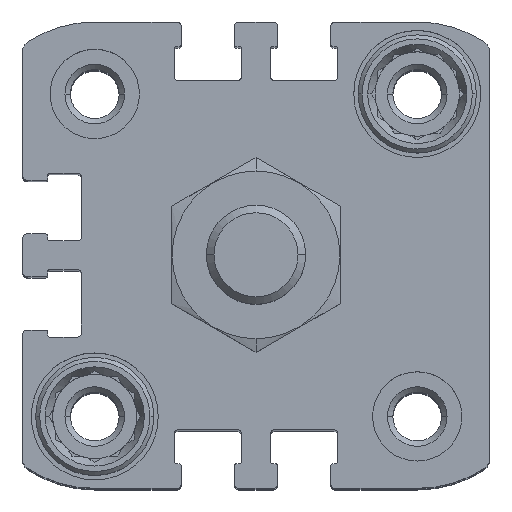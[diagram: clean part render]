
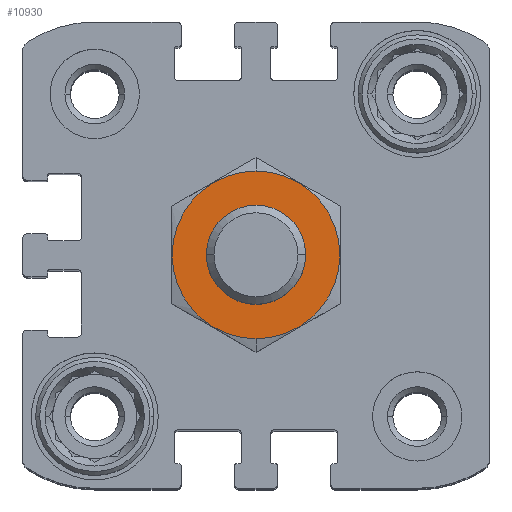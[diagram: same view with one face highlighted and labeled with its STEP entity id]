
A CAD part, top view. The second image highlights one B-rep face of the part: STEP entity #10930.
In plain terms, the highlighted planar face has unit normal (0, 0, 1).
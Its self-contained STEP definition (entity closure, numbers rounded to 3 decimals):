
#46 = ORIENTED_EDGE ( 'NONE', *, *, #2064, .T. ) ;
#1138 = CARTESIAN_POINT ( 'NONE',  ( 0., -5., 15.75 ) ) ;
#1268 = DIRECTION ( 'NONE',  ( 0., 1., 0. ) ) ;
#1349 = CIRCLE ( 'NONE', #6385, 5. ) ;
#1622 = AXIS2_PLACEMENT_3D ( 'NONE', #9923, #7033, #11241 ) ;
#1828 = CARTESIAN_POINT ( 'NONE',  ( 0., -8.45, 15.75 ) ) ;
#1905 = CIRCLE ( 'NONE', #1622, 8.45 ) ;
#2064 = EDGE_CURVE ( 'NONE', #13394, #11253, #16248, .T. ) ;
#2387 = VERTEX_POINT ( 'NONE', #9518 ) ;
#2725 = EDGE_LOOP ( 'NONE', ( #8730, #9929 ) ) ;
#3131 = DIRECTION ( 'NONE',  ( 0., 1., 0. ) ) ;
#3365 = EDGE_LOOP ( 'NONE', ( #46, #12226 ) ) ;
#3404 = DIRECTION ( 'NONE',  ( 0., 1., 0. ) ) ;
#4524 = CARTESIAN_POINT ( 'NONE',  ( 0., 0., 15.75 ) ) ;
#5407 = FACE_BOUND ( 'NONE', #3365, .T. ) ;
#6209 = CARTESIAN_POINT ( 'NONE',  ( 0., 0., 15.75 ) ) ;
#6385 = AXIS2_PLACEMENT_3D ( 'NONE', #16358, #16179, #13467 ) ;
#6715 = FACE_OUTER_BOUND ( 'NONE', #2725, .T. ) ;
#7033 = DIRECTION ( 'NONE',  ( 0., 0., -1. ) ) ;
#7241 = CIRCLE ( 'NONE', #14810, 8.45 ) ;
#7720 = EDGE_CURVE ( 'NONE', #2387, #14684, #7241, .T. ) ;
#8466 = EDGE_CURVE ( 'NONE', #14684, #2387, #1905, .T. ) ;
#8730 = ORIENTED_EDGE ( 'NONE', *, *, #7720, .F. ) ;
#9274 = DIRECTION ( 'NONE',  ( 0., 0., -1. ) ) ;
#9518 = CARTESIAN_POINT ( 'NONE',  ( 0., 8.45, 15.75 ) ) ;
#9923 = CARTESIAN_POINT ( 'NONE',  ( 0., 0., 15.75 ) ) ;
#9929 = ORIENTED_EDGE ( 'NONE', *, *, #8466, .F. ) ;
#10467 = CARTESIAN_POINT ( 'NONE',  ( 0., 5., 15.75 ) ) ;
#10686 = AXIS2_PLACEMENT_3D ( 'NONE', #14615, #9274, #1268 ) ;
#10930 = ADVANCED_FACE ( 'NONE', ( #6715, #5407 ), #15929, .F. ) ;
#11105 = DIRECTION ( 'NONE',  ( 0., 0., -1. ) ) ;
#11241 = DIRECTION ( 'NONE',  ( 0., 1., 0. ) ) ;
#11253 = VERTEX_POINT ( 'NONE', #10467 ) ;
#12226 = ORIENTED_EDGE ( 'NONE', *, *, #15621, .T. ) ;
#13394 = VERTEX_POINT ( 'NONE', #1138 ) ;
#13467 = DIRECTION ( 'NONE',  ( 0., 1., 0. ) ) ;
#14109 = DIRECTION ( 'NONE',  ( 0., 0., -1. ) ) ;
#14615 = CARTESIAN_POINT ( 'NONE',  ( 0., 0., 15.75 ) ) ;
#14684 = VERTEX_POINT ( 'NONE', #1828 ) ;
#14810 = AXIS2_PLACEMENT_3D ( 'NONE', #6209, #14109, #3404 ) ;
#15621 = EDGE_CURVE ( 'NONE', #11253, #13394, #1349, .T. ) ;
#15929 = PLANE ( 'NONE',  #10686 ) ;
#16179 = DIRECTION ( 'NONE',  ( 0., 0., -1. ) ) ;
#16248 = CIRCLE ( 'NONE', #16527, 5. ) ;
#16358 = CARTESIAN_POINT ( 'NONE',  ( 0., 0., 15.75 ) ) ;
#16527 = AXIS2_PLACEMENT_3D ( 'NONE', #4524, #11105, #3131 ) ;
